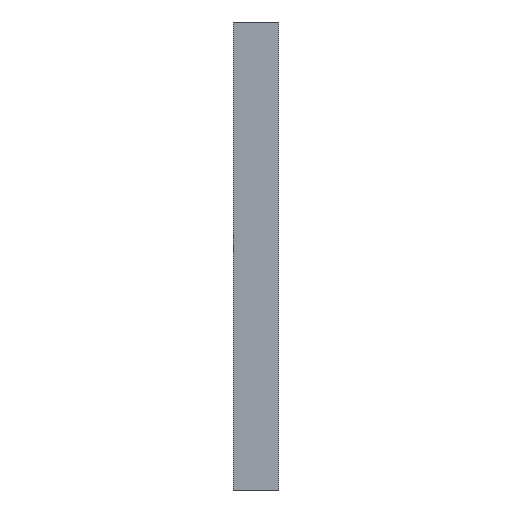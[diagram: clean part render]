
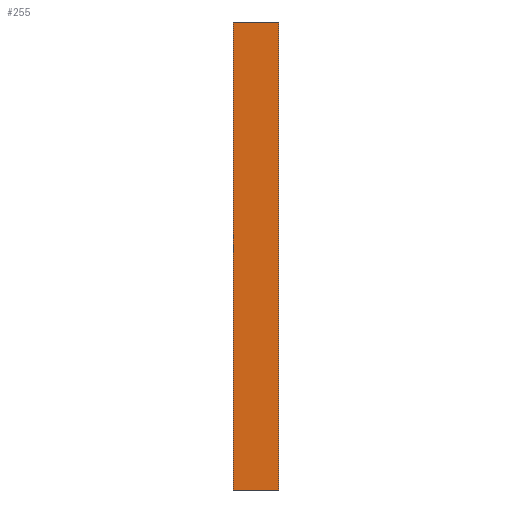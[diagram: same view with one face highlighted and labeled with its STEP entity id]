
A CAD part, front view. The second image highlights one B-rep face of the part: STEP entity #255.
In plain terms, the highlighted planar face has unit normal (0, -1, 0).
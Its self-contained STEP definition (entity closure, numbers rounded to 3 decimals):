
#39 = EDGE_CURVE('',#40,#42,#44,.T.);
#40 = VERTEX_POINT('',#41);
#41 = CARTESIAN_POINT('',(-1.5,-0.065,-15.5));
#42 = VERTEX_POINT('',#43);
#43 = CARTESIAN_POINT('',(-1.5,-0.065,15.5));
#44 = SURFACE_CURVE('',#45,(#49,#61),.PCURVE_S1.);
#45 = LINE('',#46,#47);
#46 = CARTESIAN_POINT('',(-1.5,-0.065,-15.5));
#47 = VECTOR('',#48,1.);
#48 = DIRECTION('',(0.,0.,1.));
#49 = PCURVE('',#50,#55);
#50 = PLANE('',#51);
#51 = AXIS2_PLACEMENT_3D('',#52,#53,#54);
#52 = CARTESIAN_POINT('',(-1.5,-0.065,-15.5));
#53 = DIRECTION('',(1.,0.,-0.));
#54 = DIRECTION('',(0.,0.,1.));
#55 = DEFINITIONAL_REPRESENTATION('',(#56),#60);
#56 = LINE('',#57,#58);
#57 = CARTESIAN_POINT('',(0.,0.));
#58 = VECTOR('',#59,1.);
#59 = DIRECTION('',(1.,0.));
#60 = ( GEOMETRIC_REPRESENTATION_CONTEXT(2) 
PARAMETRIC_REPRESENTATION_CONTEXT() REPRESENTATION_CONTEXT('2D SPACE',''
  ) );
#61 = PCURVE('',#62,#67);
#62 = PLANE('',#63);
#63 = AXIS2_PLACEMENT_3D('',#64,#65,#66);
#64 = CARTESIAN_POINT('',(-1.5,-0.065,-15.5));
#65 = DIRECTION('',(-0.,1.,0.));
#66 = DIRECTION('',(0.,0.,1.));
#67 = DEFINITIONAL_REPRESENTATION('',(#68),#72);
#68 = LINE('',#69,#70);
#69 = CARTESIAN_POINT('',(0.,0.));
#70 = VECTOR('',#71,1.);
#71 = DIRECTION('',(1.,0.));
#72 = ( GEOMETRIC_REPRESENTATION_CONTEXT(2) 
PARAMETRIC_REPRESENTATION_CONTEXT() REPRESENTATION_CONTEXT('2D SPACE',''
  ) );
#90 = PLANE('',#91);
#91 = AXIS2_PLACEMENT_3D('',#92,#93,#94);
#92 = CARTESIAN_POINT('',(-1.5,-0.065,-15.5));
#93 = DIRECTION('',(0.,0.,1.));
#94 = DIRECTION('',(1.,0.,-0.));
#144 = PLANE('',#145);
#145 = AXIS2_PLACEMENT_3D('',#146,#147,#148);
#146 = CARTESIAN_POINT('',(-1.5,-0.065,15.5));
#147 = DIRECTION('',(0.,0.,1.));
#148 = DIRECTION('',(1.,0.,-0.));
#159 = EDGE_CURVE('',#160,#162,#164,.T.);
#160 = VERTEX_POINT('',#161);
#161 = CARTESIAN_POINT('',(1.5,-0.065,-15.5));
#162 = VERTEX_POINT('',#163);
#163 = CARTESIAN_POINT('',(1.5,-0.065,15.5));
#164 = SURFACE_CURVE('',#165,(#169,#181),.PCURVE_S1.);
#165 = LINE('',#166,#167);
#166 = CARTESIAN_POINT('',(1.5,-0.065,-15.5));
#167 = VECTOR('',#168,1.);
#168 = DIRECTION('',(0.,0.,1.));
#169 = PCURVE('',#170,#175);
#170 = PLANE('',#171);
#171 = AXIS2_PLACEMENT_3D('',#172,#173,#174);
#172 = CARTESIAN_POINT('',(1.5,-0.065,-15.5));
#173 = DIRECTION('',(1.,0.,-0.));
#174 = DIRECTION('',(0.,0.,1.));
#175 = DEFINITIONAL_REPRESENTATION('',(#176),#180);
#176 = LINE('',#177,#178);
#177 = CARTESIAN_POINT('',(0.,0.));
#178 = VECTOR('',#179,1.);
#179 = DIRECTION('',(1.,0.));
#180 = ( GEOMETRIC_REPRESENTATION_CONTEXT(2) 
PARAMETRIC_REPRESENTATION_CONTEXT() REPRESENTATION_CONTEXT('2D SPACE',''
  ) );
#181 = PCURVE('',#62,#182);
#182 = DEFINITIONAL_REPRESENTATION('',(#183),#187);
#183 = LINE('',#184,#185);
#184 = CARTESIAN_POINT('',(0.,3.));
#185 = VECTOR('',#186,1.);
#186 = DIRECTION('',(1.,0.));
#187 = ( GEOMETRIC_REPRESENTATION_CONTEXT(2) 
PARAMETRIC_REPRESENTATION_CONTEXT() REPRESENTATION_CONTEXT('2D SPACE',''
  ) );
#255 = ADVANCED_FACE('',(#256),#62,.F.);
#256 = FACE_BOUND('',#257,.F.);
#257 = EDGE_LOOP('',(#258,#279,#280,#301));
#258 = ORIENTED_EDGE('',*,*,#259,.F.);
#259 = EDGE_CURVE('',#40,#160,#260,.T.);
#260 = SURFACE_CURVE('',#261,(#265,#272),.PCURVE_S1.);
#261 = LINE('',#262,#263);
#262 = CARTESIAN_POINT('',(-1.5,-0.065,-15.5));
#263 = VECTOR('',#264,1.);
#264 = DIRECTION('',(1.,0.,-0.));
#265 = PCURVE('',#62,#266);
#266 = DEFINITIONAL_REPRESENTATION('',(#267),#271);
#267 = LINE('',#268,#269);
#268 = CARTESIAN_POINT('',(0.,0.));
#269 = VECTOR('',#270,1.);
#270 = DIRECTION('',(0.,1.));
#271 = ( GEOMETRIC_REPRESENTATION_CONTEXT(2) 
PARAMETRIC_REPRESENTATION_CONTEXT() REPRESENTATION_CONTEXT('2D SPACE',''
  ) );
#272 = PCURVE('',#90,#273);
#273 = DEFINITIONAL_REPRESENTATION('',(#274),#278);
#274 = LINE('',#275,#276);
#275 = CARTESIAN_POINT('',(0.,0.));
#276 = VECTOR('',#277,1.);
#277 = DIRECTION('',(1.,0.));
#278 = ( GEOMETRIC_REPRESENTATION_CONTEXT(2) 
PARAMETRIC_REPRESENTATION_CONTEXT() REPRESENTATION_CONTEXT('2D SPACE',''
  ) );
#279 = ORIENTED_EDGE('',*,*,#39,.T.);
#280 = ORIENTED_EDGE('',*,*,#281,.T.);
#281 = EDGE_CURVE('',#42,#162,#282,.T.);
#282 = SURFACE_CURVE('',#283,(#287,#294),.PCURVE_S1.);
#283 = LINE('',#284,#285);
#284 = CARTESIAN_POINT('',(-1.5,-0.065,15.5));
#285 = VECTOR('',#286,1.);
#286 = DIRECTION('',(1.,0.,-0.));
#287 = PCURVE('',#62,#288);
#288 = DEFINITIONAL_REPRESENTATION('',(#289),#293);
#289 = LINE('',#290,#291);
#290 = CARTESIAN_POINT('',(31.,0.));
#291 = VECTOR('',#292,1.);
#292 = DIRECTION('',(0.,1.));
#293 = ( GEOMETRIC_REPRESENTATION_CONTEXT(2) 
PARAMETRIC_REPRESENTATION_CONTEXT() REPRESENTATION_CONTEXT('2D SPACE',''
  ) );
#294 = PCURVE('',#144,#295);
#295 = DEFINITIONAL_REPRESENTATION('',(#296),#300);
#296 = LINE('',#297,#298);
#297 = CARTESIAN_POINT('',(0.,0.));
#298 = VECTOR('',#299,1.);
#299 = DIRECTION('',(1.,0.));
#300 = ( GEOMETRIC_REPRESENTATION_CONTEXT(2) 
PARAMETRIC_REPRESENTATION_CONTEXT() REPRESENTATION_CONTEXT('2D SPACE',''
  ) );
#301 = ORIENTED_EDGE('',*,*,#159,.F.);
